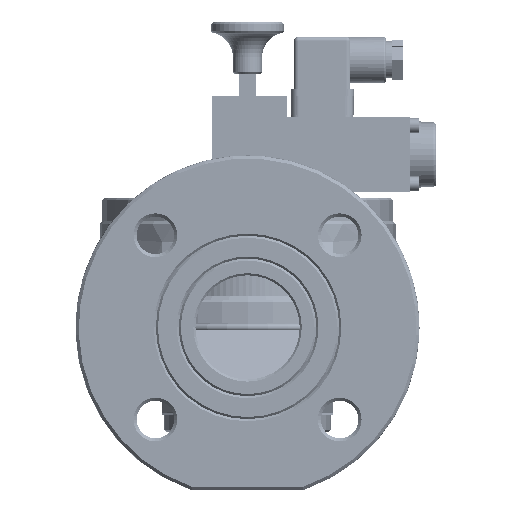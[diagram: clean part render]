
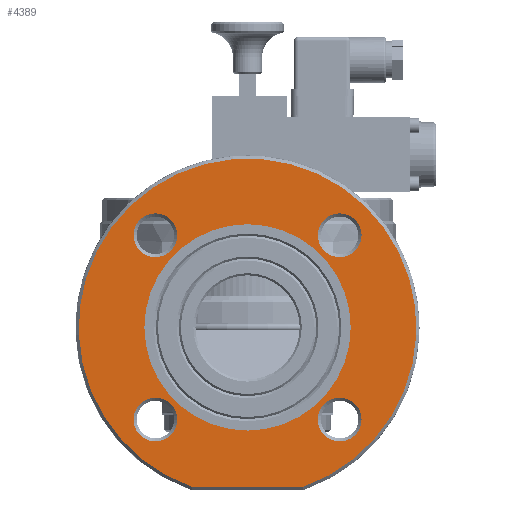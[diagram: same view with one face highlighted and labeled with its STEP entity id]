
A CAD part, front view. The second image highlights one B-rep face of the part: STEP entity #4389.
In plain terms, the highlighted planar face has unit normal (0, -1, 0).
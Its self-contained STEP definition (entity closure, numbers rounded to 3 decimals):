
#4389 = ADVANCED_FACE( '', ( #6777, #6778, #6779, #6780, #6781, #6782 ), #6783, .F. );
#6777 = FACE_OUTER_BOUND( '', #10372, .T. );
#6778 = FACE_BOUND( '', #10373, .T. );
#6779 = FACE_BOUND( '', #10374, .T. );
#6780 = FACE_BOUND( '', #10375, .T. );
#6781 = FACE_BOUND( '', #10376, .T. );
#6782 = FACE_BOUND( '', #10377, .T. );
#6783 = PLANE( '', #10378 );
#10372 = EDGE_LOOP( '', ( #19411, #19412 ) );
#10373 = EDGE_LOOP( '', ( #19413 ) );
#10374 = EDGE_LOOP( '', ( #19414 ) );
#10375 = EDGE_LOOP( '', ( #19415 ) );
#10376 = EDGE_LOOP( '', ( #19416 ) );
#10377 = EDGE_LOOP( '', ( #19417 ) );
#10378 = AXIS2_PLACEMENT_3D( '', #19418, #19419, #19420 );
#19411 = ORIENTED_EDGE( '', *, *, #22862, .T. );
#19412 = ORIENTED_EDGE( '', *, *, #22860, .T. );
#19413 = ORIENTED_EDGE( '', *, *, #22882, .T. );
#19414 = ORIENTED_EDGE( '', *, *, #22880, .T. );
#19415 = ORIENTED_EDGE( '', *, *, #22878, .T. );
#19416 = ORIENTED_EDGE( '', *, *, #22876, .T. );
#19417 = ORIENTED_EDGE( '', *, *, #22897, .F. );
#19418 = CARTESIAN_POINT( '', ( 0., -113., 49.5 ) );
#19419 = DIRECTION( '', ( 0., 1., 0. ) );
#19420 = DIRECTION( '', ( -1., 0., 0. ) );
#22860 = EDGE_CURVE( '', #26175, #26177, #26179, .T. );
#22862 = EDGE_CURVE( '', #26177, #26175, #26181, .F. );
#22876 = EDGE_CURVE( '', #26205, #26205, #26206, .T. );
#22878 = EDGE_CURVE( '', #26209, #26209, #26210, .T. );
#22880 = EDGE_CURVE( '', #26213, #26213, #26214, .T. );
#22882 = EDGE_CURVE( '', #26217, #26217, #26218, .T. );
#22897 = EDGE_CURVE( '', #26243, #26243, #26244, .T. );
#26175 = VERTEX_POINT( '', #32536 );
#26177 = VERTEX_POINT( '', #32541 );
#26179 = LINE( '', #32546, #32547 );
#26181 = CIRCLE( '', #32549, 81. );
#26205 = VERTEX_POINT( '', #32580 );
#26206 = CIRCLE( '', #32581, 10.5 );
#26209 = VERTEX_POINT( '', #32584 );
#26210 = CIRCLE( '', #32585, 10.5 );
#26213 = VERTEX_POINT( '', #32588 );
#26214 = CIRCLE( '', #32589, 10.5 );
#26217 = VERTEX_POINT( '', #32592 );
#26218 = CIRCLE( '', #32593, 10.5 );
#26243 = VERTEX_POINT( '', #32618 );
#26244 = CIRCLE( '', #32619, 49.5 );
#32536 = CARTESIAN_POINT( '', ( -26.622, -113., -76.5 ) );
#32541 = CARTESIAN_POINT( '', ( 26.622, -113., -76.5 ) );
#32546 = CARTESIAN_POINT( '', ( 26.875, -113., -76.5 ) );
#32547 = VECTOR( '', #36871, 1000. );
#32549 = AXIS2_PLACEMENT_3D( '', #36875, #36876, #36877 );
#32580 = CARTESIAN_POINT( '', ( -54.694, -113., 44.194 ) );
#32581 = AXIS2_PLACEMENT_3D( '', #36909, #36910, #36911 );
#32584 = CARTESIAN_POINT( '', ( 33.694, -113., 44.194 ) );
#32585 = AXIS2_PLACEMENT_3D( '', #36915, #36916, #36917 );
#32588 = CARTESIAN_POINT( '', ( 33.694, -113., -44.194 ) );
#32589 = AXIS2_PLACEMENT_3D( '', #36921, #36922, #36923 );
#32592 = CARTESIAN_POINT( '', ( -54.694, -113., -44.194 ) );
#32593 = AXIS2_PLACEMENT_3D( '', #36927, #36928, #36929 );
#32618 = CARTESIAN_POINT( '', ( 49.5, -113., 0. ) );
#32619 = AXIS2_PLACEMENT_3D( '', #36966, #36967, #36968 );
#36871 = DIRECTION( '', ( 1., 0., 0. ) );
#36875 = CARTESIAN_POINT( '', ( 0., -113., 0. ) );
#36876 = DIRECTION( '', ( 0., 1., 0. ) );
#36877 = DIRECTION( '', ( -1., 0., 0. ) );
#36909 = CARTESIAN_POINT( '', ( -44.194, -113., 44.194 ) );
#36910 = DIRECTION( '', ( 0., 1., 0. ) );
#36911 = DIRECTION( '', ( -1., 0., 0. ) );
#36915 = CARTESIAN_POINT( '', ( 44.194, -113., 44.194 ) );
#36916 = DIRECTION( '', ( 0., 1., 0. ) );
#36917 = DIRECTION( '', ( -1., 0., 0. ) );
#36921 = CARTESIAN_POINT( '', ( 44.194, -113., -44.194 ) );
#36922 = DIRECTION( '', ( 0., 1., 0. ) );
#36923 = DIRECTION( '', ( -1., 0., 0. ) );
#36927 = CARTESIAN_POINT( '', ( -44.194, -113., -44.194 ) );
#36928 = DIRECTION( '', ( 0., 1., 0. ) );
#36929 = DIRECTION( '', ( -1., 0., 0. ) );
#36966 = CARTESIAN_POINT( '', ( 0., -113., 0. ) );
#36967 = DIRECTION( '', ( 0., -1., 0. ) );
#36968 = DIRECTION( '', ( 1., 0., 0. ) );
